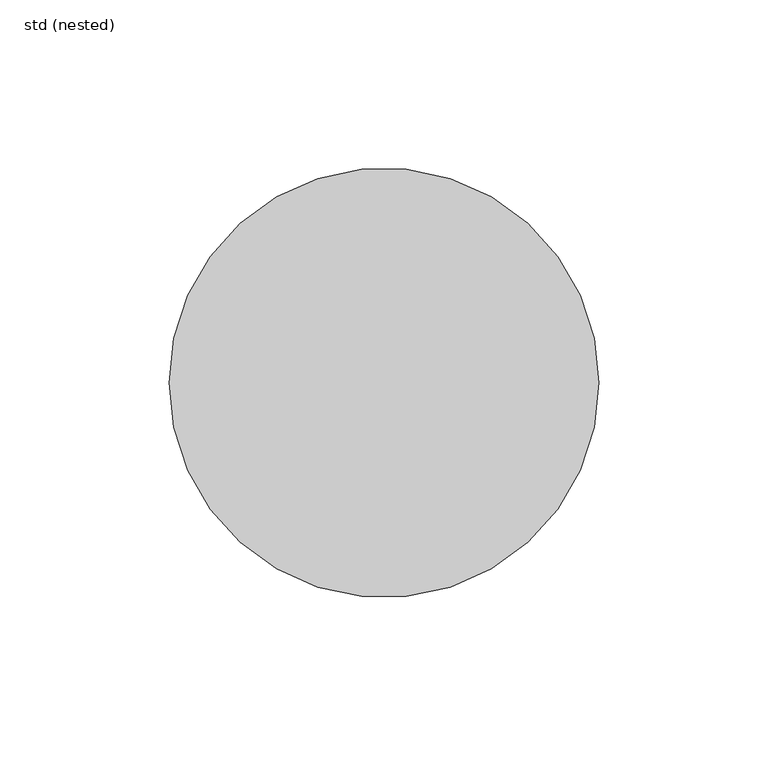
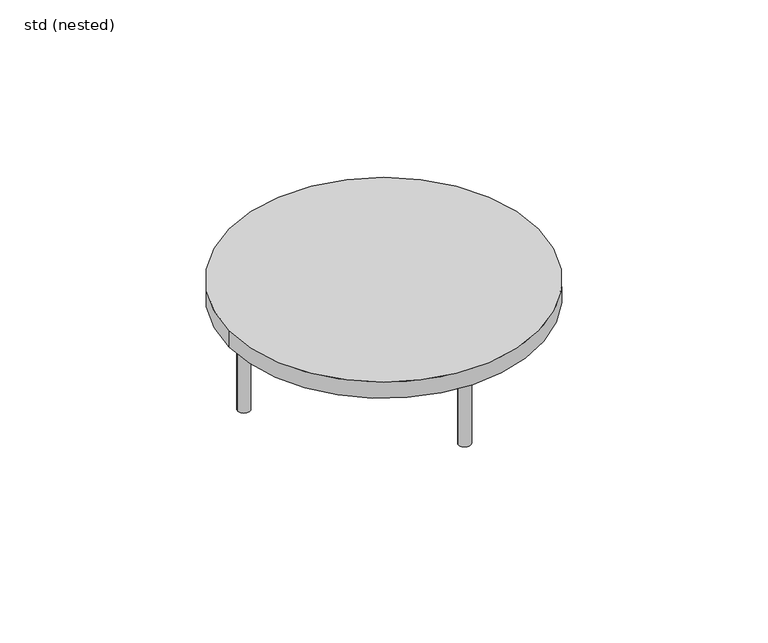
"""IFC4 building model written with IfcOpenShell, lengths in millimetres: sanitary terminal geometry, ZZZ_do not use_PF_ST_fire protection inset_ACO : std (nested)."""

from ifc_helpers import new_model, si_unit, point, frame, frame_2d, origin, origin_with_axes, origin_2d, place, context, project, spatial, circle_curve, trimmed, segment, composite_curve, outline, extrude, source, transform, mapped, element, save


def std_nested_38cea44b(model_context):
    return source(origin(), model_context, "Body", "SweptSolid", [
        extrude(outline(composite_curve([segment(trimmed(circle_curve(frame_2d((57.5, 0.0)), 2.5), [point((55.0, 0.0))], [point((60.0, 0.0))], False, "CARTESIAN"), True, "CONTINUOUS"), segment(trimmed(circle_curve(frame_2d((57.5, 0.0)), 2.5), [point((60.0, 0.0))], [point((55.0, 0.0))], False, "CARTESIAN"), True, "CONTINUOUS")], self_intersect=False)), origin_with_axes(), (0.0, 0.0, 1.0), 29.0),
        extrude(outline(composite_curve([segment(trimmed(circle_curve(frame_2d((0.0, 57.5)), 2.5), [point((-2.5, 57.5))], [point((2.5, 57.5))], False, "CARTESIAN"), True, "CONTINUOUS"), segment(trimmed(circle_curve(frame_2d((0.0, 57.5)), 2.5), [point((2.5, 57.5))], [point((-2.5, 57.5))], False, "CARTESIAN"), True, "CONTINUOUS")], self_intersect=False)), origin_with_axes(), (0.0, 0.0, 1.0), 29.0),
        extrude(outline(composite_curve([segment(trimmed(circle_curve(frame_2d((0.0, -57.5)), 2.5), [point((-2.5, -57.5))], [point((2.5, -57.5))], False, "CARTESIAN"), True, "CONTINUOUS"), segment(trimmed(circle_curve(frame_2d((0.0, -57.5)), 2.5), [point((2.5, -57.5))], [point((-2.5, -57.5))], False, "CARTESIAN"), True, "CONTINUOUS")], self_intersect=False)), origin_with_axes(), (0.0, 0.0, 1.0), 29.0),
        extrude(outline(composite_curve([segment(trimmed(circle_curve(frame_2d((-57.5, 0.0)), 2.5), [point((-60.0, 0.0))], [point((-55.0, 0.0))], False, "CARTESIAN"), True, "CONTINUOUS"), segment(trimmed(circle_curve(frame_2d((-57.5, 0.0)), 2.5), [point((-55.0, 0.0))], [point((-60.0, 0.0))], False, "CARTESIAN"), True, "CONTINUOUS")], self_intersect=False)), origin_with_axes(), (0.0, 0.0, 1.0), 29.0),
        extrude(outline(composite_curve([segment(trimmed(circle_curve(origin_2d(), 63.5), [point((-63.5, 0.0))], [point((63.5, 0.0))], False, "CARTESIAN"), True, "CONTINUOUS"), segment(trimmed(circle_curve(origin_2d(), 63.5), [point((63.5, 0.0))], [point((-63.5, 0.0))], False, "CARTESIAN"), True, "CONTINUOUS")], self_intersect=False)), frame((0.0, 0.0, 29.0), z_axis=(0.0, 0.0, 1.0), x_axis=(1.0, 0.0, 0.0)), (0.0, 0.0, 1.0), 7.0),
    ])


if __name__ == "__main__":
    model = new_model("IFC4")
    model_context = context("Model", 3, world=origin())
    ifc_project = project(units=[si_unit("LENGTHUNIT", "METRE", prefix="MILLI")], contexts=[model_context])
    site = spatial("IfcSite", under=ifc_project)
    building = spatial("IfcBuilding", under=site)
    placement = place(None, origin())
    std_nested_shape = std_nested_38cea44b(model_context)
    element("IfcSanitaryTerminal", 1, ObjectType="ZZZ_do not use_PF_ST_fire protection inset_ACO : std (nested)", at=placement, inside=building, context=model_context, shape_type="MappedRepresentation", body=[
        mapped(std_nested_shape, transform((0.0, 0.0, 0.0), x_axis=(1.0, 0.0, 0.0), y_axis=(0.0, 1.0, 0.0), z_axis=(0.0, 0.0, 1.0))),
    ])
    save(model, "model.ifc")
